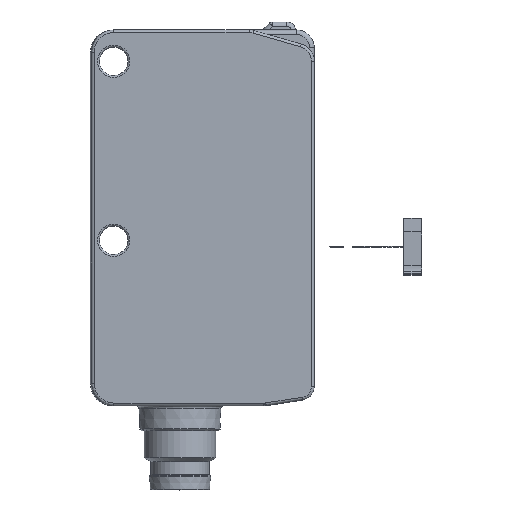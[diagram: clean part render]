
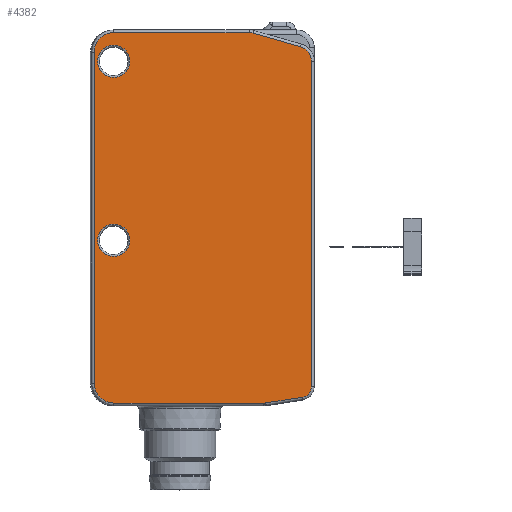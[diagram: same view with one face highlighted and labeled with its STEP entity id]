
A CAD part, top view. The second image highlights one B-rep face of the part: STEP entity #4382.
In plain terms, the highlighted planar face has unit normal (0, 0, 1).
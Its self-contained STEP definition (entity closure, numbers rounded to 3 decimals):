
#139=FACE_BOUND('',#5188,.T.);
#140=FACE_BOUND('',#5189,.T.);
#141=FACE_BOUND('',#5190,.T.);
#500=PLANE('',#9211);
#782=LINE('',#13967,#1072);
#783=LINE('',#13969,#1073);
#784=LINE('',#13971,#1074);
#785=LINE('',#13975,#1075);
#786=LINE('',#13979,#1076);
#787=LINE('',#13983,#1077);
#1072=VECTOR('',#10437,1.);
#1073=VECTOR('',#10440,1.);
#1074=VECTOR('',#10441,1.);
#1075=VECTOR('',#10444,1.);
#1076=VECTOR('',#10447,1.);
#1077=VECTOR('',#10450,1.);
#1238=CIRCLE('',#9035,1.8);
#1242=CIRCLE('',#9041,1.8);
#1327=CIRCLE('',#9208,1.2);
#1328=CIRCLE('',#9209,1.7);
#1329=CIRCLE('',#9210,1.7);
#4382=ADVANCED_FACE('',(#139,#140,#141),#500,.T.);
#5188=EDGE_LOOP('',(#6744,#6745,#6746,#6747,#6748,#6749,#6750,#6751,#6752,
#6753,#6754));
#5189=EDGE_LOOP('',(#6755));
#5190=EDGE_LOOP('',(#6756));
#6744=ORIENTED_EDGE('',*,*,#8408,.T.);
#6745=ORIENTED_EDGE('',*,*,#8129,.T.);
#6746=ORIENTED_EDGE('',*,*,#8409,.T.);
#6747=ORIENTED_EDGE('',*,*,#8410,.T.);
#6748=ORIENTED_EDGE('',*,*,#8411,.T.);
#6749=ORIENTED_EDGE('',*,*,#8412,.T.);
#6750=ORIENTED_EDGE('',*,*,#8413,.T.);
#6751=ORIENTED_EDGE('',*,*,#8414,.T.);
#6752=ORIENTED_EDGE('',*,*,#8415,.T.);
#6753=ORIENTED_EDGE('',*,*,#8416,.T.);
#6754=ORIENTED_EDGE('',*,*,#8407,.T.);
#6755=ORIENTED_EDGE('',*,*,#8120,.T.);
#6756=ORIENTED_EDGE('',*,*,#8116,.T.);
#7371=VERTEX_POINT('',#12434);
#7375=VERTEX_POINT('',#12472);
#7381=VERTEX_POINT('',#12519);
#7383=VERTEX_POINT('',#12553);
#7556=VERTEX_POINT('',#13934);
#7557=VERTEX_POINT('',#13938);
#7558=VERTEX_POINT('',#13970);
#7559=VERTEX_POINT('',#13972);
#7560=VERTEX_POINT('',#13974);
#7561=VERTEX_POINT('',#13976);
#7562=VERTEX_POINT('',#13978);
#7563=VERTEX_POINT('',#13980);
#7564=VERTEX_POINT('',#13982);
#8116=EDGE_CURVE('',#7371,#7371,#1238,.T.);
#8120=EDGE_CURVE('',#7375,#7375,#1242,.T.);
#8129=EDGE_CURVE('',#7381,#7383,#8669,.T.);
#8407=EDGE_CURVE('',#7556,#7557,#8730,.T.);
#8408=EDGE_CURVE('',#7557,#7381,#782,.T.);
#8409=EDGE_CURVE('',#7383,#7558,#783,.T.);
#8410=EDGE_CURVE('',#7558,#7559,#784,.T.);
#8411=EDGE_CURVE('',#7559,#7560,#1327,.T.);
#8412=EDGE_CURVE('',#7560,#7561,#785,.T.);
#8413=EDGE_CURVE('',#7561,#7562,#1328,.T.);
#8414=EDGE_CURVE('',#7562,#7563,#786,.T.);
#8415=EDGE_CURVE('',#7563,#7564,#1329,.T.);
#8416=EDGE_CURVE('',#7564,#7556,#787,.T.);
#8669=B_SPLINE_CURVE_WITH_KNOTS('',3,(#12554,#12555,#12556,#12557,#12558,
#12559,#12560),.UNSPECIFIED.,.F.,.F.,(4,1,1,1,4),(0.,0.282,
0.52,0.726,1.),.UNSPECIFIED.);
#8730=B_SPLINE_CURVE_WITH_KNOTS('',3,(#13939,#13940,#13941,#13942,#13943,
#13944,#13945),.UNSPECIFIED.,.F.,.F.,(4,1,1,1,4),(0.,0.282,
0.52,0.794,1.),.UNSPECIFIED.);
#9035=AXIS2_PLACEMENT_3D('',#12433,#10001,#10002);
#9041=AXIS2_PLACEMENT_3D('',#12471,#10013,#10014);
#9208=AXIS2_PLACEMENT_3D('',#13973,#10442,#10443);
#9209=AXIS2_PLACEMENT_3D('',#13977,#10445,#10446);
#9210=AXIS2_PLACEMENT_3D('',#13981,#10448,#10449);
#9211=AXIS2_PLACEMENT_3D('',#13984,#10451,#10452);
#10001=DIRECTION('',(0.,0.,-1.));
#10002=DIRECTION('',(-1.,0.,0.));
#10013=DIRECTION('',(0.,0.,-1.));
#10014=DIRECTION('',(-1.,0.,0.));
#10437=DIRECTION('',(0.,-1.,0.));
#10440=DIRECTION('',(1.,0.,0.));
#10441=DIRECTION('',(0.988,0.153,0.));
#10442=DIRECTION('',(0.,0.,1.));
#10443=DIRECTION('',(1.,0.,0.));
#10444=DIRECTION('',(0.,1.,0.));
#10445=DIRECTION('',(0.,0.,1.));
#10446=DIRECTION('',(1.,0.,0.));
#10447=DIRECTION('',(-0.962,0.275,0.));
#10448=DIRECTION('',(0.,0.,1.));
#10449=DIRECTION('',(0.,-1.,0.));
#10450=DIRECTION('',(-1.,0.,0.));
#10451=DIRECTION('',(0.,0.,1.));
#10452=DIRECTION('',(1.,0.,0.));
#12433=CARTESIAN_POINT('',(0.,20.,14.));
#12434=CARTESIAN_POINT('',(-1.8,20.,14.));
#12471=CARTESIAN_POINT('',(0.,0.,14.));
#12472=CARTESIAN_POINT('',(-1.8,0.,14.));
#12519=CARTESIAN_POINT('',(-2.183,-16.,14.));
#12553=CARTESIAN_POINT('',(0.017,-18.2,14.));
#12554=CARTESIAN_POINT('',(-2.183,-16.,14.));
#12555=CARTESIAN_POINT('',(-2.183,-16.325,14.));
#12556=CARTESIAN_POINT('',(-2.048,-16.923,14.));
#12557=CARTESIAN_POINT('',(-1.547,-17.61,14.));
#12558=CARTESIAN_POINT('',(-0.852,-18.079,14.));
#12559=CARTESIAN_POINT('',(-0.299,-18.2,14.));
#12560=CARTESIAN_POINT('',(0.017,-18.2,14.));
#13934=CARTESIAN_POINT('',(0.017,23.2,14.));
#13938=CARTESIAN_POINT('',(-2.183,21.,14.));
#13939=CARTESIAN_POINT('',(0.017,23.2,14.));
#13940=CARTESIAN_POINT('',(-0.307,23.2,14.));
#13941=CARTESIAN_POINT('',(-0.906,23.065,14.));
#13942=CARTESIAN_POINT('',(-1.658,22.517,14.));
#13943=CARTESIAN_POINT('',(-2.093,21.791,14.));
#13944=CARTESIAN_POINT('',(-2.183,21.237,14.));
#13945=CARTESIAN_POINT('',(-2.183,21.,14.));
#13967=CARTESIAN_POINT('',(-2.183,11.75,14.));
#13969=CARTESIAN_POINT('',(8.447,-18.2,14.));
#13970=CARTESIAN_POINT('',(16.877,-18.2,14.));
#13971=CARTESIAN_POINT('',(18.98,-17.875,14.));
#13972=CARTESIAN_POINT('',(21.083,-17.55,14.));
#13973=CARTESIAN_POINT('',(20.9,-16.364,14.));
#13974=CARTESIAN_POINT('',(22.1,-16.364,14.));
#13975=CARTESIAN_POINT('',(22.1,1.814,14.));
#13976=CARTESIAN_POINT('',(22.1,19.991,14.));
#13977=CARTESIAN_POINT('',(20.4,19.991,14.));
#13978=CARTESIAN_POINT('',(20.867,21.626,14.));
#13979=CARTESIAN_POINT('',(18.227,22.38,14.));
#13980=CARTESIAN_POINT('',(15.587,23.135,14.));
#13981=CARTESIAN_POINT('',(15.12,21.5,14.));
#13982=CARTESIAN_POINT('',(15.12,23.2,14.));
#13983=CARTESIAN_POINT('',(7.569,23.2,14.));
#13984=CARTESIAN_POINT('',(23.65,25.6,14.));
